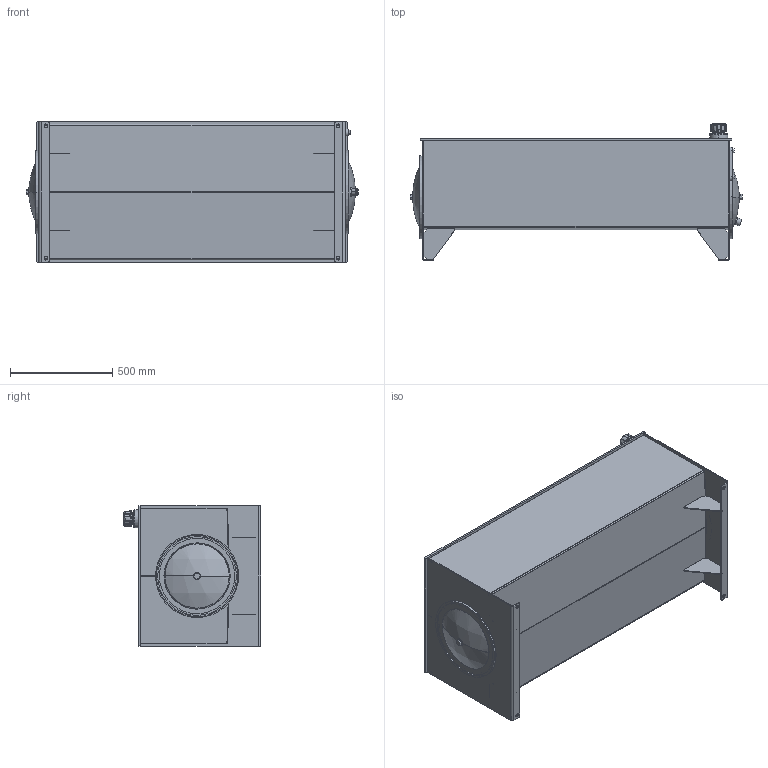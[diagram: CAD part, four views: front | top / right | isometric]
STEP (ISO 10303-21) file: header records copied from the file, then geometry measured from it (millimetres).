
FILE_DESCRIPTION (( 'STEP AP203' ), '1' );
FILE_NAME ('RJIC100-FT.STEP', '2015-01-07T16:42:49', ( '' ), ( '' ), 'SwSTEP 2.0', 'SolidWorks 2014', '' );
FILE_SCHEMA (( 'CONFIG_CONTROL_DESIGN' ));
Length unit declared in the file: inch
Products named in the file (1): RJIC100-FT
Bounding box: 1623.56 x 671.96 x 685.8 mm (x, y, z)
Volume: 23889141.3 mm3; surface area: 10330354.3 mm2
Topology: 19 solids, 19 shells, 602 faces, 1423 edges, 860 vertices
Faces by surface type: plane 229, cylinder 212, torus 63, bspline 48, sphere 32, cone 18
Entity records: 20148 total; most frequent: CARTESIAN_POINT 6171, DIRECTION 3022, ORIENTED_EDGE 2822, EDGE_CURVE 1411, AXIS2_PLACEMENT_3D 1192, VERTEX_POINT 860, EDGE_LOOP 677, LINE 638
